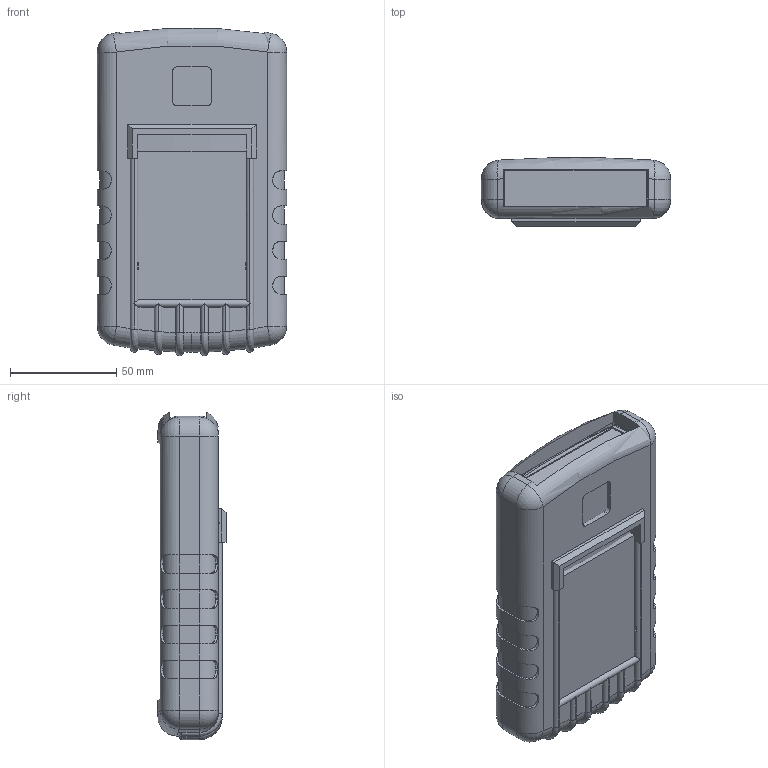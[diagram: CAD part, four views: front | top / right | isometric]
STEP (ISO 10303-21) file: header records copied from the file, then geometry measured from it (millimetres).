
FILE_DESCRIPTION (( 'STEP AP214' ), '1' );
FILE_NAME ('70-12-4A-F.STEP', '2021-06-18T01:56:18', ( '' ), ( '' ), 'SwSTEP 2.0', 'SolidWorks 2016', '' );
FILE_SCHEMA (( 'AUTOMOTIVE_DESIGN' ));
Length unit declared in the file: millimetre
Products named in the file (7): 65 PCB W BAT; 70-12-4A-F; end plate; 70 4AA TOP-F; 4AA; 70 RBT; bat door
Assembly tree (6 placements, depth 2):
  70-12-4A-F
    4AA
    70 4AA TOP-F
    end plate
    bat door
    70 RBT
    65 PCB W BAT
Bounding box: 88.9 x 31.99 x 153.77 mm (x, y, z)
Volume: 170030.1 mm3; surface area: 127243.4 mm2
Topology: 6 solids, 6 shells, 1013 faces, 2753 edges, 1779 vertices
Faces by surface type: plane 604, cylinder 279, bspline 46, cone 34, torus 34, sphere 16
Entity records: 35065 total; most frequent: CARTESIAN_POINT 9543, ORIENTED_EDGE 5498, DIRECTION 5023, EDGE_CURVE 2749, LINE 1809, VECTOR 1809, VERTEX_POINT 1779, AXIS2_PLACEMENT_3D 1607
